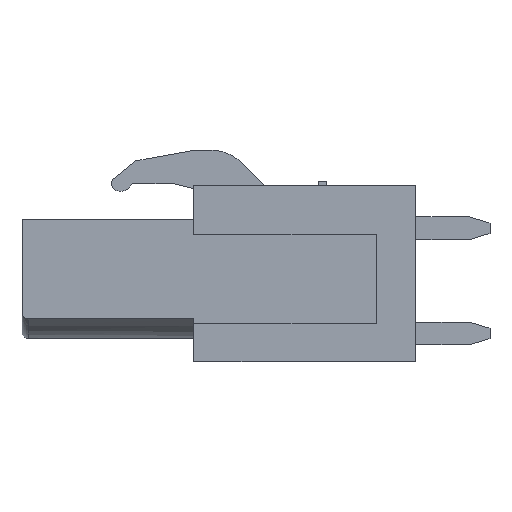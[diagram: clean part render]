
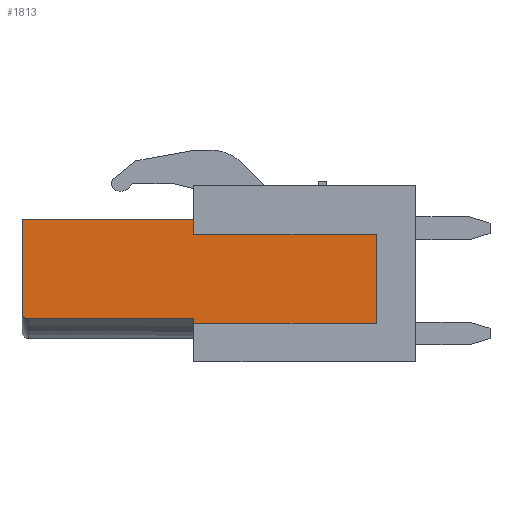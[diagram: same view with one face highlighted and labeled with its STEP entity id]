
A CAD part, left-side view. The second image highlights one B-rep face of the part: STEP entity #1813.
In plain terms, the highlighted planar face has unit normal (-1, 0, 0).
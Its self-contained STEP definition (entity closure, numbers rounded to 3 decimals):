
#1813=ADVANCED_FACE('',(#5179),#5181,.T.);
#5179=FACE_BOUND('',#5180,.T.);
#5180=EDGE_LOOP('',(#7821,#7822,#7823,#7824,#7825,#7826,#7827,#7828,#7829));
#5181=PLANE('',#5182);
#5182=AXIS2_PLACEMENT_3D('',#5183,#5184,#5185);
#5183=CARTESIAN_POINT('',(1.,31.223,27.173));
#5184=DIRECTION('',(-1.,0.,0.));
#5185=DIRECTION('',(0.,0.,-1.));
#7821=ORIENTED_EDGE('',*,*,#9504,.T.);
#7822=ORIENTED_EDGE('',*,*,#9457,.F.);
#7823=ORIENTED_EDGE('',*,*,#9503,.F.);
#7824=ORIENTED_EDGE('',*,*,#9505,.T.);
#7825=ORIENTED_EDGE('',*,*,#9506,.T.);
#7826=ORIENTED_EDGE('',*,*,#9507,.F.);
#7827=ORIENTED_EDGE('',*,*,#9508,.T.);
#7828=ORIENTED_EDGE('',*,*,#9470,.F.);
#7829=ORIENTED_EDGE('',*,*,#9509,.T.);
#9457=EDGE_CURVE('',#10834,#10836,#10837,.T.);
#9470=EDGE_CURVE('',#10858,#10860,#10861,.T.);
#9503=EDGE_CURVE('',#10919,#10834,#10921,.T.);
#9504=EDGE_CURVE('',#10922,#10836,#10923,.T.);
#9505=EDGE_CURVE('',#10919,#10924,#10925,.T.);
#9506=EDGE_CURVE('',#10924,#10926,#10927,.T.);
#9507=EDGE_CURVE('',#10928,#10926,#10929,.T.);
#9508=EDGE_CURVE('',#10928,#10860,#10930,.T.);
#9509=EDGE_CURVE('',#10858,#10922,#10931,.T.);
#10834=VERTEX_POINT('',#13987);
#10836=VERTEX_POINT('',#13991);
#10837=LINE('',#13992,#13993);
#10858=VERTEX_POINT('',#14043);
#10860=VERTEX_POINT('',#14046);
#10861=LINE('',#14047,#14048);
#10919=VERTEX_POINT('',#14176);
#10921=LINE('',#14180,#14181);
#10922=VERTEX_POINT('',#14183);
#10923=LINE('',#14184,#14185);
#10924=VERTEX_POINT('',#14187);
#10925=LINE('',#14188,#14189);
#10926=VERTEX_POINT('',#14191);
#10927=LINE('',#14192,#14193);
#10928=VERTEX_POINT('',#14195);
#10929=LINE('',#14196,#14197);
#10930=LINE('',#14199,#14200);
#10931=(BOUNDED_CURVE()B_SPLINE_CURVE(2,
(#14202,#14203,#14204,#14205,#14206),
.UNSPECIFIED.,.F.,.F.)B_SPLINE_CURVE_WITH_KNOTS((3,2,3),
(0.,0.506,1.),
.UNSPECIFIED.)CURVE()GEOMETRIC_REPRESENTATION_ITEM()RATIONAL_B_SPLINE_CURVE((0.854,
0.852,1.,0.855,0.854))REPRESENTATION_ITEM(''));
#13987=CARTESIAN_POINT('',(1.,10.7,1.35));
#13991=CARTESIAN_POINT('',(1.,10.7,2.06));
#13992=CARTESIAN_POINT('',(1.,10.7,1.35));
#13993=VECTOR('',#13994,1.);
#13994=DIRECTION('',(0.,0.,1.));
#14043=CARTESIAN_POINT('',(1.,19.,2.36));
#14046=CARTESIAN_POINT('',(1.,19.,6.86));
#14047=CARTESIAN_POINT('',(1.,19.,2.36));
#14048=VECTOR('',#14049,1.);
#14049=DIRECTION('',(0.,0.,1.));
#14176=CARTESIAN_POINT('',(1.,1.9,1.35));
#14180=CARTESIAN_POINT('',(1.,1.9,1.35));
#14181=VECTOR('',#14182,1.);
#14182=DIRECTION('',(0.,1.,0.));
#14183=CARTESIAN_POINT('',(1.,18.7,2.06));
#14184=CARTESIAN_POINT('',(1.,18.7,2.06));
#14185=VECTOR('',#14186,1.);
#14186=DIRECTION('',(0.,-1.,0.));
#14187=CARTESIAN_POINT('',(1.,1.9,6.65));
#14188=CARTESIAN_POINT('',(1.,1.9,1.35));
#14189=VECTOR('',#14190,1.);
#14190=DIRECTION('',(0.,0.,1.));
#14191=CARTESIAN_POINT('',(1.,10.7,6.65));
#14192=CARTESIAN_POINT('',(1.,1.9,6.65));
#14193=VECTOR('',#14194,1.);
#14194=DIRECTION('',(0.,1.,0.));
#14195=CARTESIAN_POINT('',(1.,10.7,6.86));
#14196=CARTESIAN_POINT('',(1.,10.7,6.86));
#14197=VECTOR('',#14198,1.);
#14198=DIRECTION('',(0.,0.,-1.));
#14199=CARTESIAN_POINT('',(1.,10.7,6.86));
#14200=VECTOR('',#14201,1.);
#14201=DIRECTION('',(0.,1.,0.));
#14202=CARTESIAN_POINT('',(1.,19.,2.36));
#14203=CARTESIAN_POINT('',(1.,19.,2.234));
#14204=CARTESIAN_POINT('',(1.,18.91,2.146));
#14205=CARTESIAN_POINT('',(1.,18.823,2.06));
#14206=CARTESIAN_POINT('',(1.,18.7,2.06));
